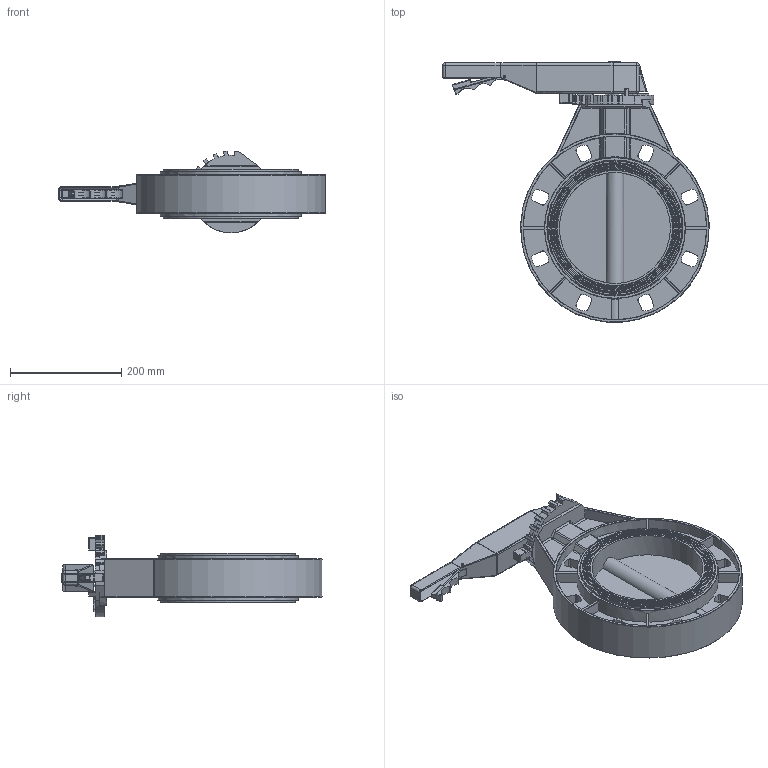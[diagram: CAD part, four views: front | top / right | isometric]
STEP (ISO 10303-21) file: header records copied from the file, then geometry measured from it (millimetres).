
FILE_DESCRIPTION(('STEP AP242'), '1');
FILE_NAME('WBV4242E-2W-Fb-H 青蜮铕 滂耜钼 DN.ru 捏200 畜10', '', ('UNSPECIFIED'), ('UNSPECIFIED'), 'C3D Converter', 'C3D Toolkit', '');
FILE_SCHEMA(('AP242_MANAGED_MODEL_BASED_3D_ENGINEERING_MIM_LF { 1 0 10303 442 1 1 4 }'));
Length unit declared in the file: millimetre
Products named in the file (1): WBV4242E-2W-Fb-H
Bounding box: 479.82 x 468.53 x 147.09 mm (x, y, z)
Volume: 4044819.1 mm3; surface area: 769362.7 mm2
Topology: 1 solids, 1 shells, 977 faces, 2519 edges, 1573 vertices
Faces by surface type: plane 374, cylinder 275, bspline 246, torus 76, sphere 6
Full cylindrical faces by diameter (mm): 15 x1, 32 x2, 200 x2, 243.2 x1, 244 x1, 254 x2
Entity records: 71771 total; most frequent: CARTESIAN_POINT 41810, ORIENTED_EDGE 4962, DIRECTION 3940, EDGE_CURVE 2481, VERTEX_POINT 1573, AXIS2_PLACEMENT_3D 1357, LINE 1226, VECTOR 1226
